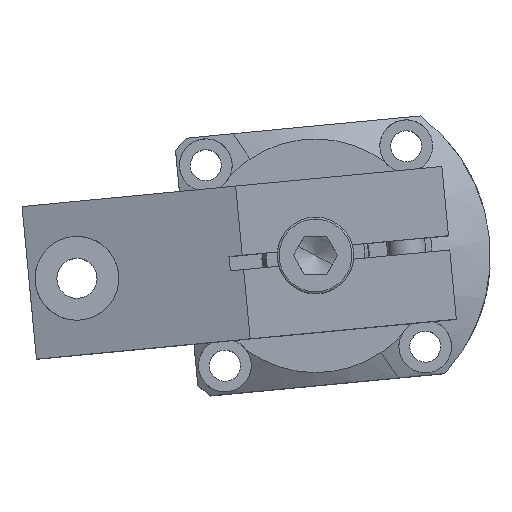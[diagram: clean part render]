
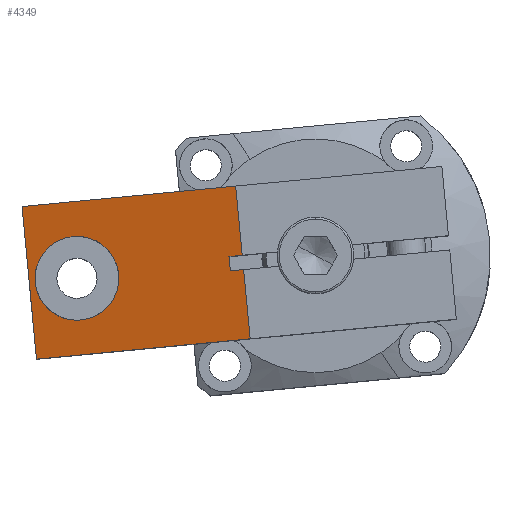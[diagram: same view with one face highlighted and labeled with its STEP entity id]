
A CAD part, top view. The second image highlights one B-rep face of the part: STEP entity #4349.
In plain terms, the highlighted planar face has unit normal (-0.258, -0.025, 0.966) as drawn and (-0.259, 0, 0.966) by its records, which use the part's own axes.
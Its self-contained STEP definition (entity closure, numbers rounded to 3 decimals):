
#3494=CARTESIAN_POINT('Line Origine',(-18.,0.,34.254)) ;
#3498=CARTESIAN_POINT('Vertex',(-18.,1.5,34.254)) ;
#3500=CARTESIAN_POINT('Vertex',(-18.,-1.5,34.254)) ;
#3534=CARTESIAN_POINT('Line Origine',(-16.608,-1.5,34.627)) ;
#3538=CARTESIAN_POINT('Vertex',(-15.215,-1.5,35.)) ;
#3654=CARTESIAN_POINT('Vertex',(-15.215,16.,35.)) ;
#3657=CARTESIAN_POINT('Line Origine',(-15.215,8.75,35.)) ;
#3661=CARTESIAN_POINT('Vertex',(-15.215,1.5,35.)) ;
#3685=CARTESIAN_POINT('Control Point',(-57.679,4.195,23.622)) ;
#3686=CARTESIAN_POINT('Control Point',(-56.844,5.724,23.846)) ;
#3687=CARTESIAN_POINT('Control Point',(-55.634,7.033,24.17)) ;
#3688=CARTESIAN_POINT('Control Point',(-54.135,7.998,24.572)) ;
#3689=CARTESIAN_POINT('Control Point',(-51.536,8.882,25.268)) ;
#3690=CARTESIAN_POINT('Control Point',(-48.852,8.756,25.987)) ;
#3691=CARTESIAN_POINT('Control Point',(-47.888,8.575,26.245)) ;
#3692=CARTESIAN_POINT('Control Point',(-45.522,7.779,26.879)) ;
#3693=CARTESIAN_POINT('Control Point',(-43.528,6.184,27.414)) ;
#3694=CARTESIAN_POINT('Control Point',(-42.536,4.952,27.68)) ;
#3695=CARTESIAN_POINT('Control Point',(-41.273,2.352,28.018)) ;
#3696=CARTESIAN_POINT('Control Point',(-41.122,-0.532,28.058)) ;
#3697=CARTESIAN_POINT('Control Point',(-41.299,-1.838,28.011)) ;
#3698=CARTESIAN_POINT('Control Point',(-41.709,-3.075,27.901)) ;
#3699=CARTESIAN_POINT('Control Point',(-42.321,-4.195,27.737)) ;
#3700=CARTESIAN_POINT('Vertex',(-57.679,4.195,23.622)) ;
#3702=CARTESIAN_POINT('Vertex',(-42.321,-4.195,27.737)) ;
#3732=CARTESIAN_POINT('Control Point',(-42.321,-4.195,27.737)) ;
#3733=CARTESIAN_POINT('Control Point',(-43.156,-5.724,27.513)) ;
#3734=CARTESIAN_POINT('Control Point',(-44.366,-7.033,27.189)) ;
#3735=CARTESIAN_POINT('Control Point',(-45.865,-7.998,26.787)) ;
#3736=CARTESIAN_POINT('Control Point',(-48.464,-8.882,26.091)) ;
#3737=CARTESIAN_POINT('Control Point',(-51.148,-8.756,25.372)) ;
#3738=CARTESIAN_POINT('Control Point',(-52.112,-8.575,25.114)) ;
#3739=CARTESIAN_POINT('Control Point',(-54.478,-7.779,24.48)) ;
#3740=CARTESIAN_POINT('Control Point',(-56.472,-6.184,23.945)) ;
#3741=CARTESIAN_POINT('Control Point',(-57.464,-4.952,23.679)) ;
#3742=CARTESIAN_POINT('Control Point',(-58.727,-2.352,23.341)) ;
#3743=CARTESIAN_POINT('Control Point',(-58.878,0.532,23.301)) ;
#3744=CARTESIAN_POINT('Control Point',(-58.701,1.838,23.348)) ;
#3745=CARTESIAN_POINT('Control Point',(-58.291,3.075,23.458)) ;
#3746=CARTESIAN_POINT('Control Point',(-57.679,4.195,23.622)) ;
#4061=CARTESIAN_POINT('Line Origine',(-16.608,1.5,34.627)) ;
#4179=CARTESIAN_POINT('Vertex',(-60.,16.,23.)) ;
#4182=CARTESIAN_POINT('Line Origine',(-37.608,16.,29.)) ;
#4296=CARTESIAN_POINT('Line Origine',(-15.215,-8.75,35.)) ;
#4300=CARTESIAN_POINT('Vertex',(-15.215,-16.,35.)) ;
#4318=CARTESIAN_POINT('Axis2P3D Location',(-60.,0.,23.)) ;
#4323=CARTESIAN_POINT('Line Origine',(-60.,0.,23.)) ;
#4327=CARTESIAN_POINT('Vertex',(-60.,-16.,23.)) ;
#4330=CARTESIAN_POINT('Line Origine',(-37.608,-16.,29.)) ;
#3495=DIRECTION('Vector Direction',(0.,-1.,0.)) ;
#3535=DIRECTION('Vector Direction',(-0.966,0.,-0.259)) ;
#3658=DIRECTION('Vector Direction',(0.,1.,0.)) ;
#4062=DIRECTION('Vector Direction',(-0.966,0.,-0.259)) ;
#4183=DIRECTION('Vector Direction',(0.966,0.,0.259)) ;
#4297=DIRECTION('Vector Direction',(0.,1.,0.)) ;
#4319=DIRECTION('Axis2P3D Direction',(-0.259,0.,0.966)) ;
#4320=DIRECTION('Axis2P3D XDirection',(0.966,0.,0.259)) ;
#4324=DIRECTION('Vector Direction',(0.,1.,0.)) ;
#4331=DIRECTION('Vector Direction',(0.966,0.,0.259)) ;
#4321=AXIS2_PLACEMENT_3D('Plane Axis2P3D',#4318,#4319,#4320) ;
#4336=ORIENTED_EDGE('',*,*,#3663,.T.) ;
#4337=ORIENTED_EDGE('',*,*,#4186,.F.) ;
#4338=ORIENTED_EDGE('',*,*,#4329,.F.) ;
#4339=ORIENTED_EDGE('',*,*,#4334,.T.) ;
#4340=ORIENTED_EDGE('',*,*,#4302,.T.) ;
#4341=ORIENTED_EDGE('',*,*,#3540,.T.) ;
#4342=ORIENTED_EDGE('',*,*,#3502,.F.) ;
#4343=ORIENTED_EDGE('',*,*,#4065,.F.) ;
#4346=ORIENTED_EDGE('',*,*,#3704,.T.) ;
#4347=ORIENTED_EDGE('',*,*,#3747,.T.) ;
#4348=FACE_BOUND('',#4345,.T.) ;
#3496=VECTOR('Line Direction',#3495,1.) ;
#3536=VECTOR('Line Direction',#3535,1.) ;
#3659=VECTOR('Line Direction',#3658,1.) ;
#4063=VECTOR('Line Direction',#4062,1.) ;
#4184=VECTOR('Line Direction',#4183,1.) ;
#4298=VECTOR('Line Direction',#4297,1.) ;
#4325=VECTOR('Line Direction',#4324,1.) ;
#4332=VECTOR('Line Direction',#4331,1.) ;
#4349=ADVANCED_FACE('clamp arm',(#4344,#4348),#4322,.T.) ;
#3684=B_SPLINE_CURVE_WITH_KNOTS('',5,(#3685,#3686,#3687,#3688,#3689,#3690,#3691,#3692,#3693,#3694,#3695,#3696,#3697,#3698,#3699),.UNSPECIFIED.,.F.,.U.,(6,3,3,3,6),(0.,12.42,19.498,30.467,39.563),.UNSPECIFIED.) ;
#3731=B_SPLINE_CURVE_WITH_KNOTS('',5,(#3732,#3733,#3734,#3735,#3736,#3737,#3738,#3739,#3740,#3741,#3742,#3743,#3744,#3745,#3746),.UNSPECIFIED.,.F.,.U.,(6,3,3,3,6),(0.,12.42,19.498,30.467,39.563),.UNSPECIFIED.) ;
#3502=EDGE_CURVE('',#3499,#3501,#3497,.T.) ;
#3540=EDGE_CURVE('',#3539,#3501,#3537,.T.) ;
#3663=EDGE_CURVE('',#3662,#3655,#3660,.T.) ;
#3704=EDGE_CURVE('',#3701,#3703,#3684,.T.) ;
#3747=EDGE_CURVE('',#3703,#3701,#3731,.T.) ;
#4065=EDGE_CURVE('',#3662,#3499,#4064,.T.) ;
#4186=EDGE_CURVE('',#4180,#3655,#4185,.T.) ;
#4302=EDGE_CURVE('',#4301,#3539,#4299,.T.) ;
#4329=EDGE_CURVE('',#4328,#4180,#4326,.T.) ;
#4334=EDGE_CURVE('',#4328,#4301,#4333,.T.) ;
#4335=EDGE_LOOP('',(#4336,#4337,#4338,#4339,#4340,#4341,#4342,#4343)) ;
#4345=EDGE_LOOP('',(#4346,#4347)) ;
#4344=FACE_OUTER_BOUND('',#4335,.T.) ;
#3497=LINE('Line',#3494,#3496) ;
#3537=LINE('Line',#3534,#3536) ;
#3660=LINE('Line',#3657,#3659) ;
#4064=LINE('Line',#4061,#4063) ;
#4185=LINE('Line',#4182,#4184) ;
#4299=LINE('Line',#4296,#4298) ;
#4326=LINE('Line',#4323,#4325) ;
#4333=LINE('Line',#4330,#4332) ;
#4322=PLANE('Plane',#4321) ;
#3499=VERTEX_POINT('',#3498) ;
#3501=VERTEX_POINT('',#3500) ;
#3539=VERTEX_POINT('',#3538) ;
#3655=VERTEX_POINT('',#3654) ;
#3662=VERTEX_POINT('',#3661) ;
#3701=VERTEX_POINT('',#3700) ;
#3703=VERTEX_POINT('',#3702) ;
#4180=VERTEX_POINT('',#4179) ;
#4301=VERTEX_POINT('',#4300) ;
#4328=VERTEX_POINT('',#4327) ;
